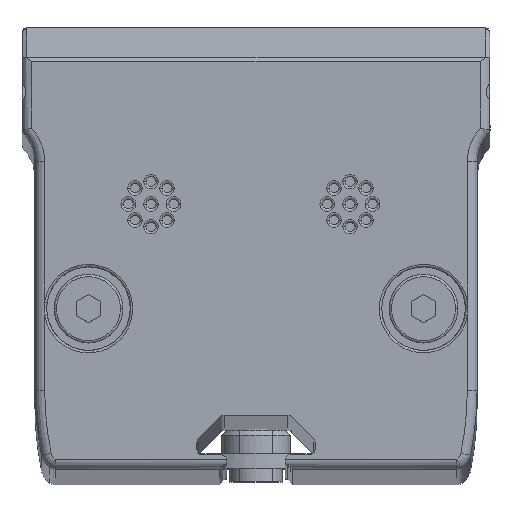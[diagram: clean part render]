
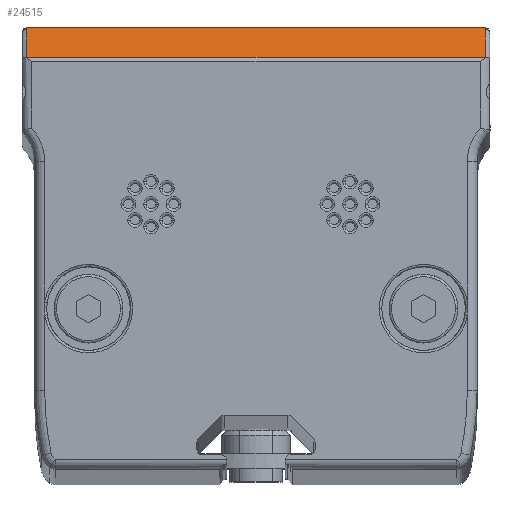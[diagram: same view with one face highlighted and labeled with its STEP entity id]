
A CAD part, top view. The second image highlights one B-rep face of the part: STEP entity #24515.
In plain terms, the highlighted planar face has unit normal (0, 0.858, 0.514).
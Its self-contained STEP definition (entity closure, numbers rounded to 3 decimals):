
#326 = EDGE_CURVE ( 'NONE', #1912, #11793, #10289, .T. ) ;
#1223 = EDGE_CURVE ( 'NONE', #11793, #17785, #10436, .T. ) ;
#1714 = CARTESIAN_POINT ( 'NONE',  ( -23.315, 22.329, 880.08 ) ) ;
#1848 = CARTESIAN_POINT ( 'NONE',  ( -23.215, 22.429, 879.914 ) ) ;
#1912 = VERTEX_POINT ( 'NONE', #4350 ) ;
#2333 = CARTESIAN_POINT ( 'NONE',  ( -23.315, 19.287, 885.15 ) ) ;
#2674 = CARTESIAN_POINT ( 'NONE',  ( 23.315, 19.287, 885.15 ) ) ;
#2872 = CARTESIAN_POINT ( 'NONE',  ( 23.215, 22.429, 879.914 ) ) ;
#3007 = CARTESIAN_POINT ( 'NONE',  ( 23.215, 22.429, 879.914 ) ) ;
#3400 = CARTESIAN_POINT ( 'NONE',  ( 23.215, 22.429, 879.914 ) ) ;
#3835 = CARTESIAN_POINT ( 'NONE',  ( -23.315, 22.329, 880.08 ) ) ;
#4065 = CARTESIAN_POINT ( 'NONE',  ( 23.215, 22.429, 879.914 ) ) ;
#4350 = CARTESIAN_POINT ( 'NONE',  ( 23.215, 22.429, 879.914 ) ) ;
#4712 = DIRECTION ( 'NONE',  ( 0., 0.514, -0.857 ) ) ;
#5365 = EDGE_CURVE ( 'NONE', #9114, #23743, #8784, .T. ) ;
#5603 = EDGE_LOOP ( 'NONE', ( #22917, #7881, #12637, #15334, #22567, #11928, #22928 ) ) ;
#5696 = CARTESIAN_POINT ( 'NONE',  ( 23.274, 22.429, 879.914 ) ) ;
#5886 =( BOUNDED_CURVE ( )  B_SPLINE_CURVE ( 3, ( #24202, #12182, #5696, #4065 ),
 .UNSPECIFIED., .F., .T. ) 
 B_SPLINE_CURVE_WITH_KNOTS ( ( 4, 4 ),
 ( 4.712, 6.283 ),
 .UNSPECIFIED. ) 
 CURVE ( )  GEOMETRIC_REPRESENTATION_ITEM ( )  RATIONAL_B_SPLINE_CURVE ( ( 1., 0.805, 0.805, 1. ) ) 
 REPRESENTATION_ITEM ( '' )  );
#6003 = LINE ( 'NONE', #2333, #14375 ) ;
#7321 = CARTESIAN_POINT ( 'NONE',  ( 23.82, 19.287, 885.15 ) ) ;
#7674 = CARTESIAN_POINT ( 'NONE',  ( 23.215, 22.429, 879.914 ) ) ;
#7881 = ORIENTED_EDGE ( 'NONE', *, *, #5365, .T. ) ;
#8256 = DIRECTION ( 'NONE',  ( -1., 0., 0. ) ) ;
#8784 = LINE ( 'NONE', #2674, #26737 ) ;
#8988 = CARTESIAN_POINT ( 'NONE',  ( 23.82, 19.433, 884.907 ) ) ;
#9114 = VERTEX_POINT ( 'NONE', #18596 ) ;
#9628 = DIRECTION ( 'NONE',  ( 0., -0.857, -0.514 ) ) ;
#10124 = CARTESIAN_POINT ( 'NONE',  ( -23.315, 22.387, 879.983 ) ) ;
#10289 = LINE ( 'NONE', #14069, #14918 ) ;
#10393 = EDGE_CURVE ( 'NONE', #17785, #21084, #6003, .T. ) ;
#10436 =( BOUNDED_CURVE ( )  B_SPLINE_CURVE ( 3, ( #1848, #26180, #10124, #1714 ),
 .UNSPECIFIED., .F., .T. ) 
 B_SPLINE_CURVE_WITH_KNOTS ( ( 4, 4 ),
 ( 0., 1.571 ),
 .UNSPECIFIED. ) 
 CURVE ( )  GEOMETRIC_REPRESENTATION_ITEM ( )  RATIONAL_B_SPLINE_CURVE ( ( 1., 0.805, 0.805, 1. ) ) 
 REPRESENTATION_ITEM ( '' )  );
#11187 = VECTOR ( 'NONE', #15458, 1000. ) ;
#11793 = VERTEX_POINT ( 'NONE', #18442 ) ;
#11928 = ORIENTED_EDGE ( 'NONE', *, *, #1223, .T. ) ;
#12182 = CARTESIAN_POINT ( 'NONE',  ( 23.315, 22.387, 879.983 ) ) ;
#12431 = CARTESIAN_POINT ( 'NONE',  ( -23.315, 19.433, 884.907 ) ) ;
#12637 = ORIENTED_EDGE ( 'NONE', *, *, #23626, .T. ) ;
#13290 = CARTESIAN_POINT ( 'NONE',  ( 23.215, 22.429, 879.914 ) ) ;
#14069 = CARTESIAN_POINT ( 'NONE',  ( -23.215, 22.429, 879.914 ) ) ;
#14375 = VECTOR ( 'NONE', #23024, 1000. ) ;
#14918 = VECTOR ( 'NONE', #8256, 1000. ) ;
#15334 = ORIENTED_EDGE ( 'NONE', *, *, #18010, .T. ) ;
#15458 = DIRECTION ( 'NONE',  ( 1., 0., 0. ) ) ;
#15564 = PLANE ( 'NONE',  #16404 ) ;
#15707 = FACE_OUTER_BOUND ( 'NONE', #5603, .T. ) ;
#16404 = AXIS2_PLACEMENT_3D ( 'NONE', #7321, #9628, #17872 ) ;
#17280 = VERTEX_POINT ( 'NONE', #7674 ) ;
#17544 =( BOUNDED_CURVE ( )  B_SPLINE_CURVE ( 3, ( #13290, #3007, #2872, #3400 ),
 .UNSPECIFIED., .F., .T. ) 
 B_SPLINE_CURVE_WITH_KNOTS ( ( 4, 4 ),
 ( 0., 0. ),
 .UNSPECIFIED. ) 
 CURVE ( )  GEOMETRIC_REPRESENTATION_ITEM ( )  RATIONAL_B_SPLINE_CURVE ( ( 1., 1., 1., 1. ) ) 
 REPRESENTATION_ITEM ( '' )  );
#17785 = VERTEX_POINT ( 'NONE', #3835 ) ;
#17872 = DIRECTION ( 'NONE',  ( 0., 0.514, -0.857 ) ) ;
#18010 = EDGE_CURVE ( 'NONE', #17280, #1912, #17544, .T. ) ;
#18442 = CARTESIAN_POINT ( 'NONE',  ( -23.215, 22.429, 879.914 ) ) ;
#18596 = CARTESIAN_POINT ( 'NONE',  ( 23.315, 19.433, 884.907 ) ) ;
#19197 = CARTESIAN_POINT ( 'NONE',  ( 23.315, 22.329, 880.08 ) ) ;
#19658 = LINE ( 'NONE', #8988, #11187 ) ;
#21084 = VERTEX_POINT ( 'NONE', #12431 ) ;
#22567 = ORIENTED_EDGE ( 'NONE', *, *, #326, .T. ) ;
#22652 = EDGE_CURVE ( 'NONE', #21084, #9114, #19658, .T. ) ;
#22917 = ORIENTED_EDGE ( 'NONE', *, *, #22652, .T. ) ;
#22928 = ORIENTED_EDGE ( 'NONE', *, *, #10393, .T. ) ;
#23024 = DIRECTION ( 'NONE',  ( 0., -0.514, 0.857 ) ) ;
#23626 = EDGE_CURVE ( 'NONE', #23743, #17280, #5886, .T. ) ;
#23743 = VERTEX_POINT ( 'NONE', #19197 ) ;
#24202 = CARTESIAN_POINT ( 'NONE',  ( 23.315, 22.329, 880.08 ) ) ;
#24515 = ADVANCED_FACE ( 'NONE', ( #15707 ), #15564, .F. ) ;
#26180 = CARTESIAN_POINT ( 'NONE',  ( -23.274, 22.429, 879.914 ) ) ;
#26737 = VECTOR ( 'NONE', #4712, 1000. ) ;
